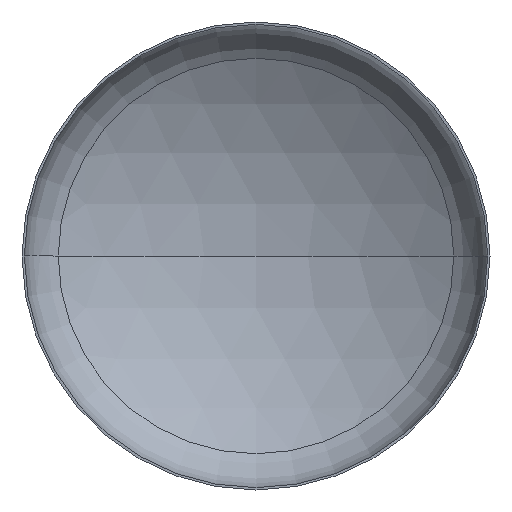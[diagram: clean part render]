
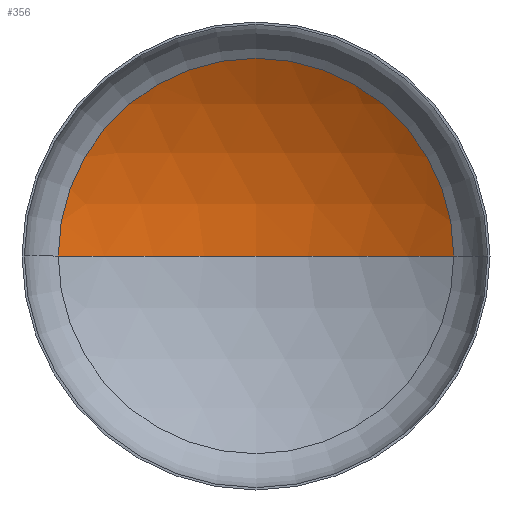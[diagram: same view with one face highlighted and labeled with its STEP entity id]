
A CAD part, front view. The second image highlights one B-rep face of the part: STEP entity #356.
In plain terms, the highlighted spherical face has radius 2240 mm.
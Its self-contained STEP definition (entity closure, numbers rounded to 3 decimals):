
#10 = ORIENTED_EDGE ( 'NONE', *, *, #78, .F. ) ;
#26 = DIRECTION ( 'NONE',  ( 1., 0., 0. ) ) ;
#31 = VERTEX_POINT ( 'NONE', #223 ) ;
#32 = AXIS2_PLACEMENT_3D ( 'NONE', #215, #288, #26 ) ;
#34 = AXIS2_PLACEMENT_3D ( 'NONE', #183, #179, #180 ) ;
#36 = AXIS2_PLACEMENT_3D ( 'NONE', #285, #283, #190 ) ;
#61 = VERTEX_POINT ( 'NONE', #262 ) ;
#74 = EDGE_CURVE ( 'NONE', #107, #31, #169, .T. ) ;
#76 = EDGE_CURVE ( 'NONE', #61, #107, #237, .T. ) ;
#78 = EDGE_CURVE ( 'NONE', #61, #31, #89, .T. ) ;
#89 = CIRCLE ( 'NONE', #32, 2240. ) ;
#106 = SPHERICAL_SURFACE ( 'NONE', #275, 2240. ) ;
#107 = VERTEX_POINT ( 'NONE', #220 ) ;
#121 = CARTESIAN_POINT ( 'NONE',  ( 0., -1491.933, 0. ) ) ;
#169 = CIRCLE ( 'NONE', #36, 1183.116 ) ;
#179 = DIRECTION ( 'NONE',  ( 0., 0., -1. ) ) ;
#180 = DIRECTION ( 'NONE',  ( -1., 0., 0. ) ) ;
#183 = CARTESIAN_POINT ( 'NONE',  ( 0., -1491.933, 0. ) ) ;
#190 = DIRECTION ( 'NONE',  ( 1., 0., 0. ) ) ;
#215 = CARTESIAN_POINT ( 'NONE',  ( 0., -1491.933, 0. ) ) ;
#220 = CARTESIAN_POINT ( 'NONE',  ( 1183.116, 410.128, 0. ) ) ;
#223 = CARTESIAN_POINT ( 'NONE',  ( -1183.116, 410.128, 0. ) ) ;
#234 = ORIENTED_EDGE ( 'NONE', *, *, #76, .T. ) ;
#237 = CIRCLE ( 'NONE', #34, 2240. ) ;
#240 = DIRECTION ( 'NONE',  ( 0., 0., -1. ) ) ;
#249 = DIRECTION ( 'NONE',  ( -1., 0., 0. ) ) ;
#262 = CARTESIAN_POINT ( 'NONE',  ( 0., 748.067, 0. ) ) ;
#275 = AXIS2_PLACEMENT_3D ( 'NONE', #121, #240, #249 ) ;
#282 = EDGE_LOOP ( 'NONE', ( #10, #234, #368 ) ) ;
#283 = DIRECTION ( 'NONE',  ( 0., -1., 0. ) ) ;
#285 = CARTESIAN_POINT ( 'NONE',  ( 0., 410.128, 0. ) ) ;
#288 = DIRECTION ( 'NONE',  ( 0., 0., 1. ) ) ;
#356 = ADVANCED_FACE ( 'NONE', ( #384 ), #106, .F. ) ;
#368 = ORIENTED_EDGE ( 'NONE', *, *, #74, .T. ) ;
#384 = FACE_OUTER_BOUND ( 'NONE', #282, .T. ) ;
